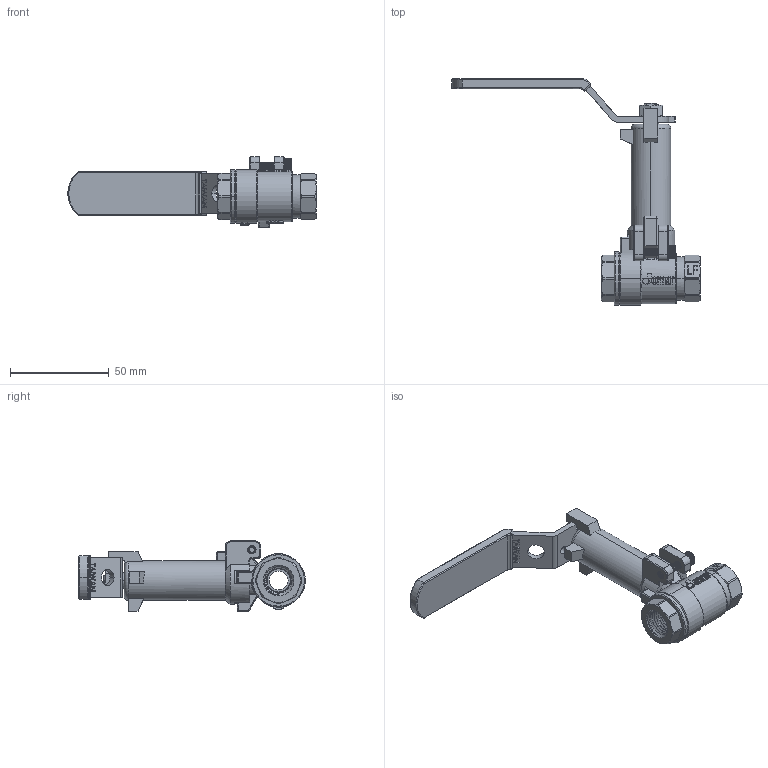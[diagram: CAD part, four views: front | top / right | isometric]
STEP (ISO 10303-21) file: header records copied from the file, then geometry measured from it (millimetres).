
FILE_DESCRIPTION (( 'STEP AP203' ), '1' );
FILE_NAME ('DN8-JOMAR增高套筒估價圖-牙口無掛鎖.STEP', '2024-04-09T07:37:25', ( '' ), ( '' ), 'SwSTEP 2.0', 'SolidWorks 2018', '' );
FILE_SCHEMA (( 'CONFIG_CONTROL_DESIGN' ));
Length unit declared in the file: millimetre
Products named in the file (17): DN15-CBL703-HANDLE & SLEEVE 組合(白色T膠套); GBL211; DN15-PIPE 2; RBL261-無鑽孔; DN8 & DN10 & DN15-白鐵中心栓; BBL701A-0.25''''JOMAR球閥八角頭-無鉛-端面無插溝; DN15-白鐵中心栓牙套; NBL262; SCREW-M4-19L; EBL201; DN8-JOMAR增高套筒估價圖-牙口無掛鎖; TBL261A; BBL701-0.25''''JOMAR球閥體-無鉛-端面無插溝; CBL211; EBL203A; DN15-CBL211白色膠套-T-200CSSG; EBL203B
Assembly tree (18 placements, depth 3):
  DN8-JOMAR增高套筒估價圖-牙口無掛鎖
    BBL701-0.25''''JOMAR球閥體-無鉛-端面無插溝
    EBL203A
    EBL203B
    GBL211
    RBL261-無鑽孔
    BBL701A-0.25''''JOMAR球閥八角頭-無鉛-端面無插溝
    NBL262
    EBL201  x2
    TBL261A
    DN15-CBL703-HANDLE & SLEEVE 組合(白色T膠套)
      CBL211
      DN15-CBL211白色膠套-T-200CSSG
    DN15-CBL211白色膠套-T-200CSSG
    DN15-PIPE 2
    DN8 & DN10 & DN15-白鐵中心栓
    DN15-白鐵中心栓牙套
    SCREW-M4-19L
Bounding box: 125.5 x 114.51 x 35.5 mm (x, y, z)
Volume: 40181.5 mm3; surface area: 51087.6 mm2
Topology: 16 solids, 18 shells, 4194 faces, 11533 edges, 7686 vertices
Faces by surface type: plane 2243, bspline 1123, cylinder 615, cone 158, torus 43, sphere 12
Entity records: 162774 total; most frequent: CARTESIAN_POINT 96202, ORIENTED_EDGE 15458, DIRECTION 10359, EDGE_CURVE 7731, VERTEX_POINT 5169, VECTOR 4141, LINE 4141, AXIS2_PLACEMENT_3D 3109
